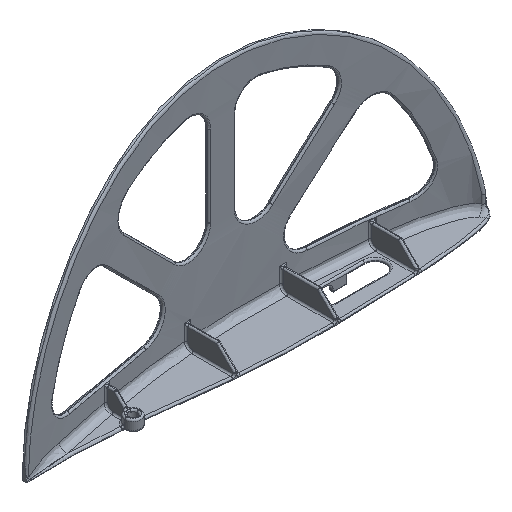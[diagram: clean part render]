
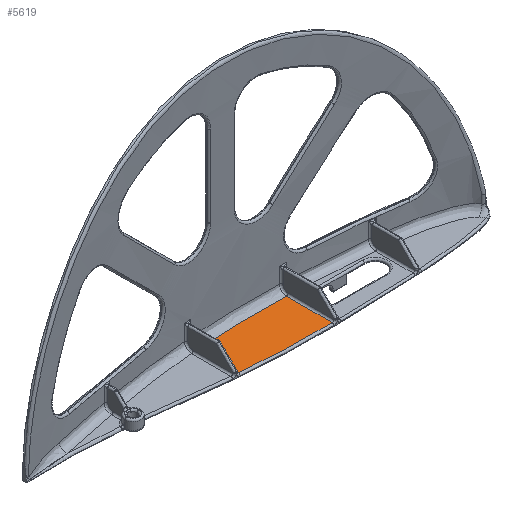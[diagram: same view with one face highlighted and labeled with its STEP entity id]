
A CAD part, isometric view. The second image highlights one B-rep face of the part: STEP entity #5619.
In plain terms, the highlighted planar face has unit normal (0, 0, 1).
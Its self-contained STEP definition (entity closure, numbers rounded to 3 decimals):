
#295 = CARTESIAN_POINT ( 'NONE',  ( 83.5, 7.285, 0.7 ) ) ;
#510 = CARTESIAN_POINT ( 'NONE',  ( 0., 0., 0.7 ) ) ;
#787 = CARTESIAN_POINT ( 'NONE',  ( 66.153, -5.596, 0.7 ) ) ;
#1283 = ORIENTED_EDGE ( 'NONE', *, *, #11227, .T. ) ;
#1299 = AXIS2_PLACEMENT_3D ( 'NONE', #510, #1791, #8618 ) ;
#1337 = VECTOR ( 'NONE', #5293, 1000. ) ;
#1791 = DIRECTION ( 'NONE',  ( 0., 0., -1. ) ) ;
#2254 = CARTESIAN_POINT ( 'NONE',  ( 57.5, -4.905, 0.7 ) ) ;
#2642 = CARTESIAN_POINT ( 'NONE',  ( 57.5, 0., 0.7 ) ) ;
#2832 = EDGE_CURVE ( 'NONE', #4759, #9453, #5310, .T. ) ;
#3221 = EDGE_CURVE ( 'NONE', #3702, #9347, #8612, .T. ) ;
#3701 = CARTESIAN_POINT ( 'NONE',  ( 74.83, 7.529, 0.7 ) ) ;
#3702 = VERTEX_POINT ( 'NONE', #3853 ) ;
#3853 = CARTESIAN_POINT ( 'NONE',  ( 83.5, 7.285, 0.7 ) ) ;
#4108 = CARTESIAN_POINT ( 'NONE',  ( 57.5, 6.832, 0.7 ) ) ;
#4759 = VERTEX_POINT ( 'NONE', #2254 ) ;
#5183 = ORIENTED_EDGE ( 'NONE', *, *, #3221, .T. ) ;
#5293 = DIRECTION ( 'NONE',  ( 0., 1., 0. ) ) ;
#5310 = B_SPLINE_CURVE_WITH_KNOTS ( 'NONE', 3,
 ( #13347, #10997, #787, #12172, #11052, #13301, #6554, #14455 ),
 .UNSPECIFIED., .F., .F.,
 ( 4, 2, 2, 4 ),
 ( 0., 0.013, 0.02, 0.026 ),
 .UNSPECIFIED. ) ;
#5619 = ADVANCED_FACE ( 'NONE', ( #8236 ), #10860, .F. ) ;
#6219 = EDGE_LOOP ( 'NONE', ( #1283, #13098, #7833, #5183 ) ) ;
#6451 = CARTESIAN_POINT ( 'NONE',  ( 83.5, -5.9, 0.7 ) ) ;
#6554 = CARTESIAN_POINT ( 'NONE',  ( 81.329, -5.916, 0.7 ) ) ;
#7402 = EDGE_CURVE ( 'NONE', #9453, #3702, #13795, .T. ) ;
#7833 = ORIENTED_EDGE ( 'NONE', *, *, #7402, .T. ) ;
#8236 = FACE_OUTER_BOUND ( 'NONE', #6219, .T. ) ;
#8612 = B_SPLINE_CURVE_WITH_KNOTS ( 'NONE', 3,
 ( #295, #3701, #11654, #10618 ),
 .UNSPECIFIED., .F., .F.,
 ( 4, 4 ),
 ( 0.001, 0.027 ),
 .UNSPECIFIED. ) ;
#8618 = DIRECTION ( 'NONE',  ( -1., 0., 0. ) ) ;
#8639 = CARTESIAN_POINT ( 'NONE',  ( 83.5, 0., 0.7 ) ) ;
#8926 = VECTOR ( 'NONE', #10604, 1000. ) ;
#9347 = VERTEX_POINT ( 'NONE', #4108 ) ;
#9453 = VERTEX_POINT ( 'NONE', #6451 ) ;
#10604 = DIRECTION ( 'NONE',  ( 0., -1., 0. ) ) ;
#10618 = CARTESIAN_POINT ( 'NONE',  ( 57.5, 6.832, 0.7 ) ) ;
#10860 = PLANE ( 'NONE',  #1299 ) ;
#10997 = CARTESIAN_POINT ( 'NONE',  ( 61.824, -5.305, 0.7 ) ) ;
#11052 = CARTESIAN_POINT ( 'NONE',  ( 74.821, -5.881, 0.7 ) ) ;
#11227 = EDGE_CURVE ( 'NONE', #9347, #4759, #13014, .T. ) ;
#11654 = CARTESIAN_POINT ( 'NONE',  ( 66.152, 7.443, 0.7 ) ) ;
#12172 = CARTESIAN_POINT ( 'NONE',  ( 72.653, -5.835, 0.7 ) ) ;
#13014 = LINE ( 'NONE', #2642, #8926 ) ;
#13098 = ORIENTED_EDGE ( 'NONE', *, *, #2832, .T. ) ;
#13301 = CARTESIAN_POINT ( 'NONE',  ( 79.159, -5.92, 0.7 ) ) ;
#13347 = CARTESIAN_POINT ( 'NONE',  ( 57.5, -4.905, 0.7 ) ) ;
#13795 = LINE ( 'NONE', #8639, #1337 ) ;
#14455 = CARTESIAN_POINT ( 'NONE',  ( 83.5, -5.9, 0.7 ) ) ;
